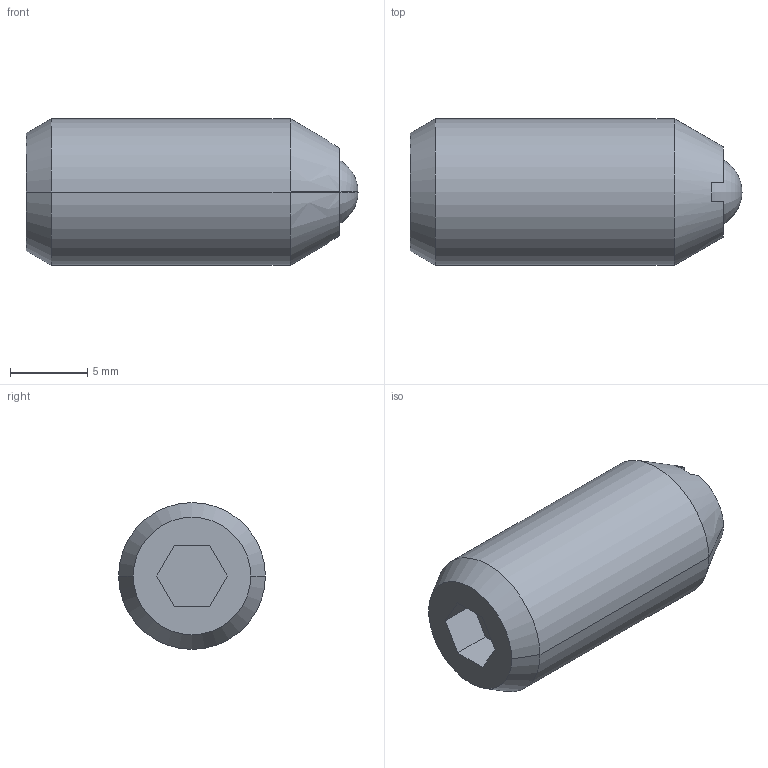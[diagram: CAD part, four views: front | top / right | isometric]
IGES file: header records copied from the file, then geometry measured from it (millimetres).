
Start section:  PTC IGES file: phb58-3d.igs
Global section: file name: phb58-3d.igs; native system: Pro/ENGINEER by Parametric Technology Corporation; preprocessor: 2002350; author: chant; organization: Unknown; date: 061026.091558; units: inch
Bounding box: 21.54 x 9.53 x 9.53 mm (x, y, z)
Surface area: 858.6 mm2 (no closed solid volume)
Topology: 0 solids, 0 shells, 27 faces, 191 edges, 241 vertices
Faces by surface type: bspline 15, revolution 12
